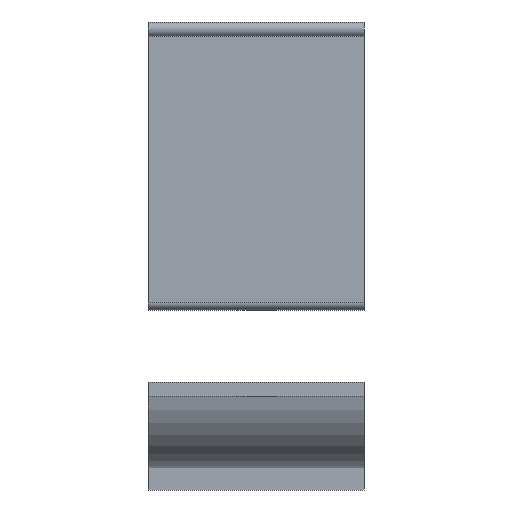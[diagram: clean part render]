
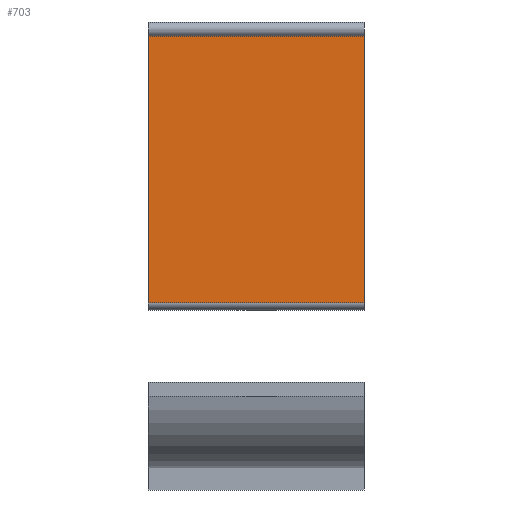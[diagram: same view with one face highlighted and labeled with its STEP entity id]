
A CAD part, front view. The second image highlights one B-rep face of the part: STEP entity #703.
In plain terms, the highlighted planar face has unit normal (0, -1, 0).
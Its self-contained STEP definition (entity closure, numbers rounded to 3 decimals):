
#40=PLANE('',#777);
#73=FACE_OUTER_BOUND('',#114,.T.);
#114=EDGE_LOOP('',(#610,#611,#612,#613));
#167=LINE('',#1101,#240);
#184=LINE('',#1147,#257);
#191=LINE('',#1163,#264);
#192=LINE('',#1165,#265);
#240=VECTOR('',#896,10.);
#257=VECTOR('',#927,10.);
#264=VECTOR('',#946,10.);
#265=VECTOR('',#949,10.);
#338=VERTEX_POINT('',#1098);
#339=VERTEX_POINT('',#1100);
#360=VERTEX_POINT('',#1144);
#361=VERTEX_POINT('',#1146);
#419=EDGE_CURVE('',#338,#339,#167,.T.);
#442=EDGE_CURVE('',#360,#361,#184,.T.);
#451=EDGE_CURVE('',#360,#339,#191,.T.);
#452=EDGE_CURVE('',#361,#338,#192,.T.);
#610=ORIENTED_EDGE('',*,*,#452,.F.);
#611=ORIENTED_EDGE('',*,*,#442,.F.);
#612=ORIENTED_EDGE('',*,*,#451,.T.);
#613=ORIENTED_EDGE('',*,*,#419,.F.);
#703=ADVANCED_FACE('',(#73),#40,.T.);
#777=AXIS2_PLACEMENT_3D('',#1167,#951,#952);
#896=DIRECTION('',(0.,0.,1.));
#927=DIRECTION('',(0.,0.,-1.));
#946=DIRECTION('',(-1.,0.,0.));
#949=DIRECTION('',(-1.,0.,0.));
#951=DIRECTION('center_axis',(0.,-1.,0.));
#952=DIRECTION('ref_axis',(0.,0.,-1.));
#1098=CARTESIAN_POINT('',(0.,-60.,1.));
#1100=CARTESIAN_POINT('',(0.,-60.,38.));
#1101=CARTESIAN_POINT('',(0.,-60.,0.));
#1144=CARTESIAN_POINT('',(30.,-60.,38.));
#1146=CARTESIAN_POINT('',(30.,-60.,1.));
#1147=CARTESIAN_POINT('',(30.,-60.,0.));
#1163=CARTESIAN_POINT('',(0.,-60.,38.));
#1165=CARTESIAN_POINT('',(0.,-60.,1.));
#1167=CARTESIAN_POINT('Origin',(0.,-60.,40.));
